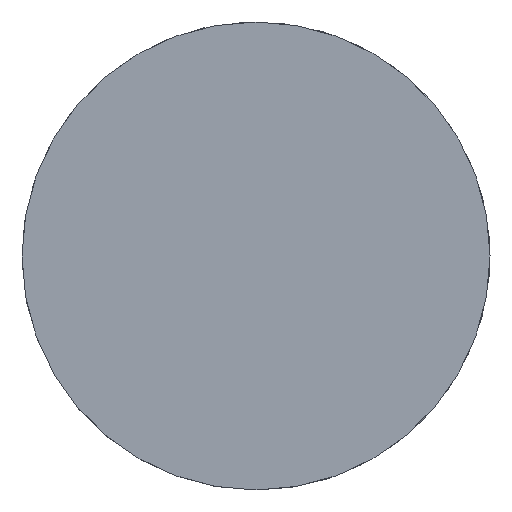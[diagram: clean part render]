
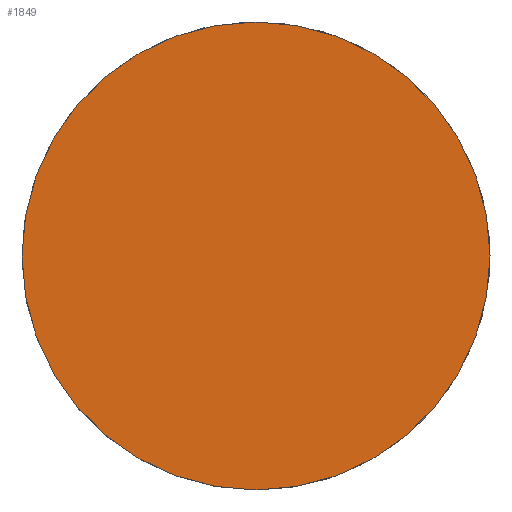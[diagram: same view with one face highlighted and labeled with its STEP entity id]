
A CAD part, left-side view. The second image highlights one B-rep face of the part: STEP entity #1849.
In plain terms, the highlighted planar face has unit normal (-1, 0, 0).
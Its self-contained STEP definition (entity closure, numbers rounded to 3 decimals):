
#158=PLANE('',#2087);
#217=FACE_OUTER_BOUND('',#339,.T.);
#339=EDGE_LOOP('',(#1356));
#603=CIRCLE('',#2084,61.5);
#809=VERTEX_POINT('',#3164);
#1026=EDGE_CURVE('',#809,#809,#603,.T.);
#1356=ORIENTED_EDGE('',*,*,#1026,.T.);
#1849=ADVANCED_FACE('',(#217),#158,.T.);
#2084=AXIS2_PLACEMENT_3D('',#3165,#2482,#2483);
#2087=AXIS2_PLACEMENT_3D('',#3170,#2489,#2490);
#2482=DIRECTION('center_axis',(-1.,0.,0.));
#2483=DIRECTION('ref_axis',(0.,1.,0.));
#2489=DIRECTION('center_axis',(-1.,0.,0.));
#2490=DIRECTION('ref_axis',(0.,1.,0.));
#3164=CARTESIAN_POINT('',(-547.266,-549.609,0.));
#3165=CARTESIAN_POINT('Origin',(-547.266,-488.109,0.));
#3170=CARTESIAN_POINT('Origin',(-547.266,-561.91,73.8));
